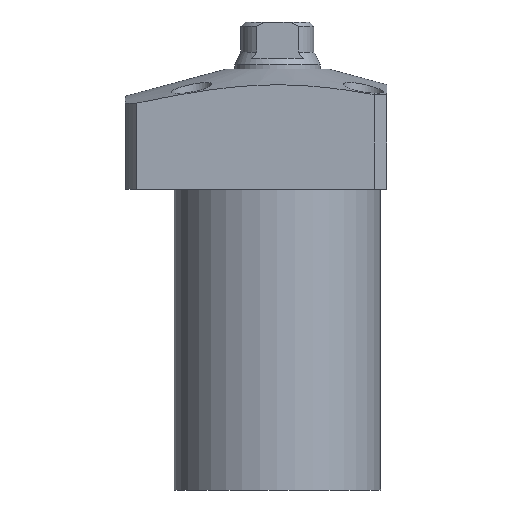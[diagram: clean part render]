
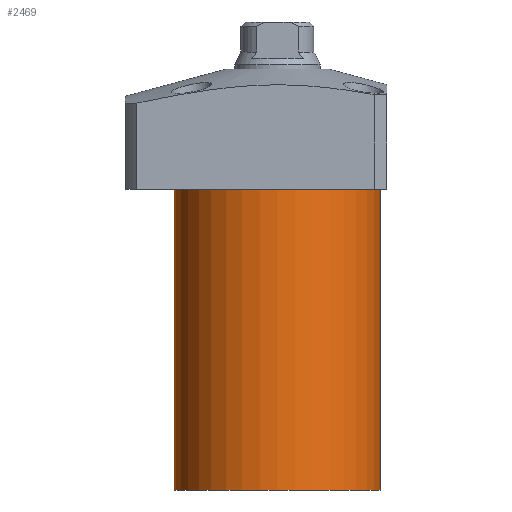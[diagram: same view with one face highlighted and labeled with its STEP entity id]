
A CAD part, front view. The second image highlights one B-rep face of the part: STEP entity #2469.
In plain terms, the highlighted cylindrical face has radius 24 mm (diameter 48 mm), a partial arc.
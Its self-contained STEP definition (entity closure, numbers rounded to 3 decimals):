
#89 = DIRECTION ( 'NONE',  ( 1., 0., 0. ) ) ;
#121 = AXIS2_PLACEMENT_3D ( 'NONE', #454, #2186, #89 ) ;
#128 = EDGE_CURVE ( 'NONE', #2118, #2342, #991, .T. ) ;
#219 = CARTESIAN_POINT ( 'NONE',  ( 24., 0., -84. ) ) ;
#334 = CARTESIAN_POINT ( 'NONE',  ( 0., 0., -84. ) ) ;
#382 = EDGE_CURVE ( 'NONE', #2301, #2118, #917, .T. ) ;
#435 = ORIENTED_EDGE ( 'NONE', *, *, #128, .F. ) ;
#454 = CARTESIAN_POINT ( 'NONE',  ( 0., 0., -84. ) ) ;
#475 = DIRECTION ( 'NONE',  ( 1., 0., 0. ) ) ;
#510 = VECTOR ( 'NONE', #1678, 1000. ) ;
#533 = CARTESIAN_POINT ( 'NONE',  ( -24., 0., -84. ) ) ;
#601 = ORIENTED_EDGE ( 'NONE', *, *, #382, .F. ) ;
#677 = DIRECTION ( 'NONE',  ( 0., 0., -1. ) ) ;
#699 = EDGE_CURVE ( 'NONE', #1783, #2342, #2397, .T. ) ;
#763 = LINE ( 'NONE', #2115, #1438 ) ;
#769 = DIRECTION ( 'NONE',  ( 0., 0., 1. ) ) ;
#808 = ORIENTED_EDGE ( 'NONE', *, *, #2303, .T. ) ;
#812 = CARTESIAN_POINT ( 'NONE',  ( 0., 0., -14. ) ) ;
#824 = DIRECTION ( 'NONE',  ( 0., 0., -1. ) ) ;
#875 = CARTESIAN_POINT ( 'NONE',  ( 24., 0., -14. ) ) ;
#900 = EDGE_LOOP ( 'NONE', ( #435, #601, #808, #2094 ) ) ;
#917 = CIRCLE ( 'NONE', #1603, 24. ) ;
#991 = LINE ( 'NONE', #533, #510 ) ;
#1086 = CARTESIAN_POINT ( 'NONE',  ( -24., 0., -84. ) ) ;
#1438 = VECTOR ( 'NONE', #769, 1000. ) ;
#1603 = AXIS2_PLACEMENT_3D ( 'NONE', #334, #677, #2213 ) ;
#1656 = CYLINDRICAL_SURFACE ( 'NONE', #121, 24. ) ;
#1678 = DIRECTION ( 'NONE',  ( 0., 0., 1. ) ) ;
#1714 = FACE_OUTER_BOUND ( 'NONE', #900, .T. ) ;
#1747 = CARTESIAN_POINT ( 'NONE',  ( -24., 0., -14. ) ) ;
#1783 = VERTEX_POINT ( 'NONE', #875 ) ;
#1880 = AXIS2_PLACEMENT_3D ( 'NONE', #812, #824, #475 ) ;
#2094 = ORIENTED_EDGE ( 'NONE', *, *, #699, .T. ) ;
#2115 = CARTESIAN_POINT ( 'NONE',  ( 24., 0., -84. ) ) ;
#2118 = VERTEX_POINT ( 'NONE', #1086 ) ;
#2186 = DIRECTION ( 'NONE',  ( 0., 0., 1. ) ) ;
#2213 = DIRECTION ( 'NONE',  ( -1., 0., 0. ) ) ;
#2301 = VERTEX_POINT ( 'NONE', #219 ) ;
#2303 = EDGE_CURVE ( 'NONE', #2301, #1783, #763, .T. ) ;
#2342 = VERTEX_POINT ( 'NONE', #1747 ) ;
#2397 = CIRCLE ( 'NONE', #1880, 24. ) ;
#2469 = ADVANCED_FACE ( 'NONE', ( #1714 ), #1656, .T. ) ;
